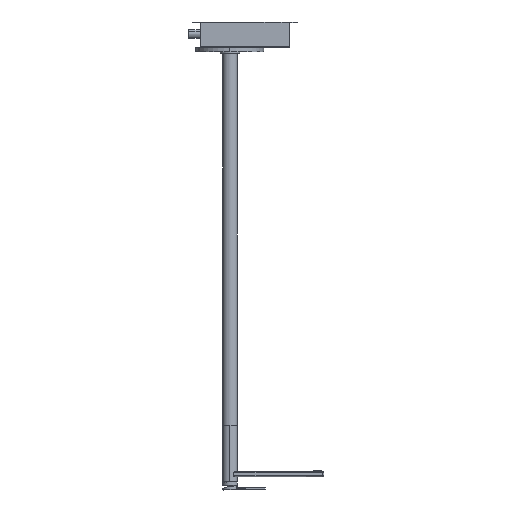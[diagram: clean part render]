
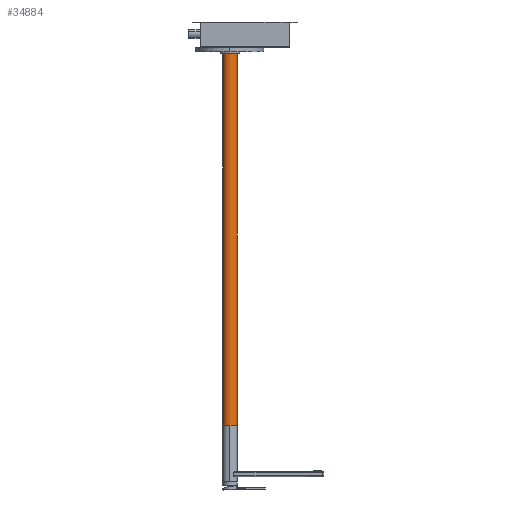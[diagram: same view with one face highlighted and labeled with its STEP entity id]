
A CAD part, left-side view. The second image highlights one B-rep face of the part: STEP entity #34884.
In plain terms, the highlighted cylindrical face has radius 17.5 mm (diameter 35 mm), a partial arc.
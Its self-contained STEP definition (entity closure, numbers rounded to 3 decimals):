
#158 = EDGE_CURVE ( 'NONE', #29633, #12766, #1463, .T. ) ;
#1265 = CARTESIAN_POINT ( 'NONE',  ( 17.382, 2.033, 872.045 ) ) ;
#1291 = CARTESIAN_POINT ( 'NONE',  ( -17.5, 0., 0. ) ) ;
#1434 = CARTESIAN_POINT ( 'NONE',  ( 17.405, 1.822, 872.553 ) ) ;
#1463 = CIRCLE ( 'NONE', #21684, 17.5 ) ;
#2159 = AXIS2_PLACEMENT_3D ( 'NONE', #30511, #16953, #33583 ) ;
#2459 = VECTOR ( 'NONE', #5280, 1000. ) ;
#2785 = DIRECTION ( 'NONE',  ( 0., 0., 1. ) ) ;
#3617 = CARTESIAN_POINT ( 'NONE',  ( 17.5, 0.278, 869.4 ) ) ;
#5147 = AXIS2_PLACEMENT_3D ( 'NONE', #22381, #19663, #29826 ) ;
#5280 = DIRECTION ( 'NONE',  ( 0., 0., -1. ) ) ;
#5826 = VERTEX_POINT ( 'NONE', #21489 ) ;
#6170 = VERTEX_POINT ( 'NONE', #33017 ) ;
#6294 = CARTESIAN_POINT ( 'NONE',  ( 17.375, 2.087, 871.226 ) ) ;
#6469 = VERTEX_POINT ( 'NONE', #34063 ) ;
#6470 = CARTESIAN_POINT ( 'NONE',  ( 17.453, 1.293, 869.822 ) ) ;
#6641 = CARTESIAN_POINT ( 'NONE',  ( 17.429, 1.581, 872.889 ) ) ;
#6828 = CARTESIAN_POINT ( 'NONE',  ( 17.374, 2.1, 871.64 ) ) ;
#7150 = ORIENTED_EDGE ( 'NONE', *, *, #8504, .T. ) ;
#8015 = CARTESIAN_POINT ( 'NONE',  ( 17.5, 0., 159. ) ) ;
#8468 = CARTESIAN_POINT ( 'NONE',  ( 17.5, 0., 159. ) ) ;
#8504 = EDGE_CURVE ( 'NONE', #5826, #6469, #20671, .T. ) ;
#8593 = FACE_OUTER_BOUND ( 'NONE', #35555, .T. ) ;
#8895 = DIRECTION ( 'NONE',  ( 1., 0., 0. ) ) ;
#9542 = CARTESIAN_POINT ( 'NONE',  ( 17.5, 0., 873.6 ) ) ;
#10864 = EDGE_CURVE ( 'NONE', #6170, #5826, #16737, .T. ) ;
#11278 = CARTESIAN_POINT ( 'NONE',  ( 0., 0., 0. ) ) ;
#11400 = VECTOR ( 'NONE', #13923, 1000. ) ;
#11904 = CARTESIAN_POINT ( 'NONE',  ( 17.47, 1.056, 873.336 ) ) ;
#12445 = CARTESIAN_POINT ( 'NONE',  ( 17.386, 1.992, 872.179 ) ) ;
#12766 = VERTEX_POINT ( 'NONE', #1291 ) ;
#13521 = ORIENTED_EDGE ( 'NONE', *, *, #16396, .T. ) ;
#13923 = DIRECTION ( 'NONE',  ( 0., 0., -1. ) ) ;
#15187 = CARTESIAN_POINT ( 'NONE',  ( 17.381, 2.033, 870.958 ) ) ;
#16396 = EDGE_CURVE ( 'NONE', #6469, #29633, #30387, .T. ) ;
#16737 = LINE ( 'NONE', #8015, #20317 ) ;
#16953 = DIRECTION ( 'NONE',  ( 0., 0., 1. ) ) ;
#18079 = ORIENTED_EDGE ( 'NONE', *, *, #31461, .F. ) ;
#19063 = LINE ( 'NONE', #30086, #2459 ) ;
#19663 = DIRECTION ( 'NONE',  ( 0., 0., -1. ) ) ;
#20317 = VECTOR ( 'NONE', #33536, 1000. ) ;
#20671 = B_SPLINE_CURVE_WITH_KNOTS ( 'NONE', 3,
 ( #9542, #26218, #28561, #11904, #31627, #6641, #25861, #1434, #23336, #12445, #1265, #34515, #6828, #34333, #6294, #15187, #29089, #31441, #33983, #23511, #28397, #6470, #26391, #22797, #3617, #26048 ),
 .UNSPECIFIED., .F., .F.,
 ( 4, 2, 2, 2, 2, 2, 2, 2, 2, 2, 2, 2, 4 ),
 ( 0.007, 0.007, 0.008, 0.009, 0.009, 0.009, 0.01, 0.01, 0.011, 0.011, 0.011, 0.012, 0.013 ),
 .UNSPECIFIED. ) ;
#21489 = CARTESIAN_POINT ( 'NONE',  ( 17.5, 0., 873.6 ) ) ;
#21684 = AXIS2_PLACEMENT_3D ( 'NONE', #11278, #2785, #8895 ) ;
#22381 = CARTESIAN_POINT ( 'NONE',  ( 0., 0., 159. ) ) ;
#22454 = VERTEX_POINT ( 'NONE', #23316 ) ;
#22797 = CARTESIAN_POINT ( 'NONE',  ( 17.493, 0.554, 869.456 ) ) ;
#23316 = CARTESIAN_POINT ( 'NONE',  ( -17.5, 0., 884. ) ) ;
#23336 = CARTESIAN_POINT ( 'NONE',  ( 17.398, 1.886, 872.433 ) ) ;
#23511 = CARTESIAN_POINT ( 'NONE',  ( 17.42, 1.671, 870.221 ) ) ;
#24664 = EDGE_CURVE ( 'NONE', #22454, #12766, #19063, .T. ) ;
#24753 = ORIENTED_EDGE ( 'NONE', *, *, #158, .T. ) ;
#25085 = ORIENTED_EDGE ( 'NONE', *, *, #10864, .T. ) ;
#25249 = CIRCLE ( 'NONE', #2159, 17.5 ) ;
#25485 = CARTESIAN_POINT ( 'NONE',  ( 17.5, 0., 0. ) ) ;
#25861 = CARTESIAN_POINT ( 'NONE',  ( 17.42, 1.669, 872.781 ) ) ;
#26048 = CARTESIAN_POINT ( 'NONE',  ( 17.5, 0., 869.4 ) ) ;
#26218 = CARTESIAN_POINT ( 'NONE',  ( 17.5, 0.274, 873.6 ) ) ;
#26391 = CARTESIAN_POINT ( 'NONE',  ( 17.47, 1.059, 869.666 ) ) ;
#27318 = CYLINDRICAL_SURFACE ( 'NONE', #5147, 17.5 ) ;
#28397 = CARTESIAN_POINT ( 'NONE',  ( 17.429, 1.583, 870.113 ) ) ;
#28561 = CARTESIAN_POINT ( 'NONE',  ( 17.493, 0.551, 873.545 ) ) ;
#29089 = CARTESIAN_POINT ( 'NONE',  ( 17.386, 1.993, 870.824 ) ) ;
#29633 = VERTEX_POINT ( 'NONE', #25485 ) ;
#29826 = DIRECTION ( 'NONE',  ( -1., 0., 0. ) ) ;
#30086 = CARTESIAN_POINT ( 'NONE',  ( -17.5, 0., 159. ) ) ;
#30387 = LINE ( 'NONE', #8468, #11400 ) ;
#30511 = CARTESIAN_POINT ( 'NONE',  ( 0., 0., 884. ) ) ;
#31441 = CARTESIAN_POINT ( 'NONE',  ( 17.398, 1.888, 870.57 ) ) ;
#31461 = EDGE_CURVE ( 'NONE', #6170, #22454, #25249, .T. ) ;
#31627 = CARTESIAN_POINT ( 'NONE',  ( 17.453, 1.29, 873.179 ) ) ;
#33017 = CARTESIAN_POINT ( 'NONE',  ( 17.5, 0., 884. ) ) ;
#33536 = DIRECTION ( 'NONE',  ( 0., 0., -1. ) ) ;
#33583 = DIRECTION ( 'NONE',  ( 1., 0., 0. ) ) ;
#33799 = ORIENTED_EDGE ( 'NONE', *, *, #24664, .F. ) ;
#33983 = CARTESIAN_POINT ( 'NONE',  ( 17.405, 1.823, 870.449 ) ) ;
#34063 = CARTESIAN_POINT ( 'NONE',  ( 17.5, 0., 869.4 ) ) ;
#34333 = CARTESIAN_POINT ( 'NONE',  ( 17.374, 2.1, 871.363 ) ) ;
#34515 = CARTESIAN_POINT ( 'NONE',  ( 17.375, 2.086, 871.777 ) ) ;
#34884 = ADVANCED_FACE ( 'NONE', ( #8593 ), #27318, .T. ) ;
#35555 = EDGE_LOOP ( 'NONE', ( #18079, #25085, #7150, #13521, #24753, #33799 ) ) ;
